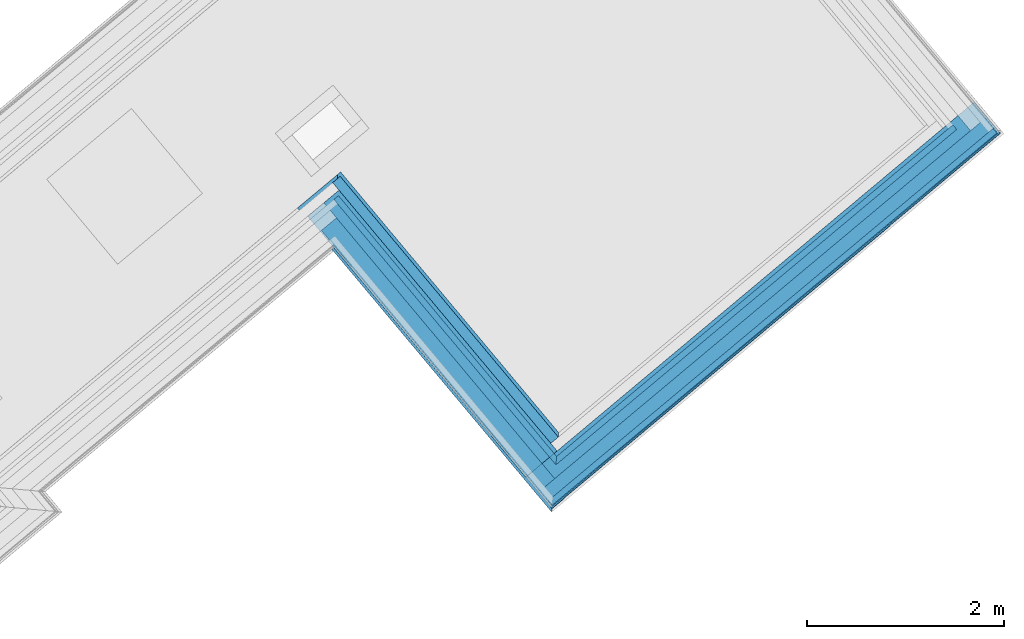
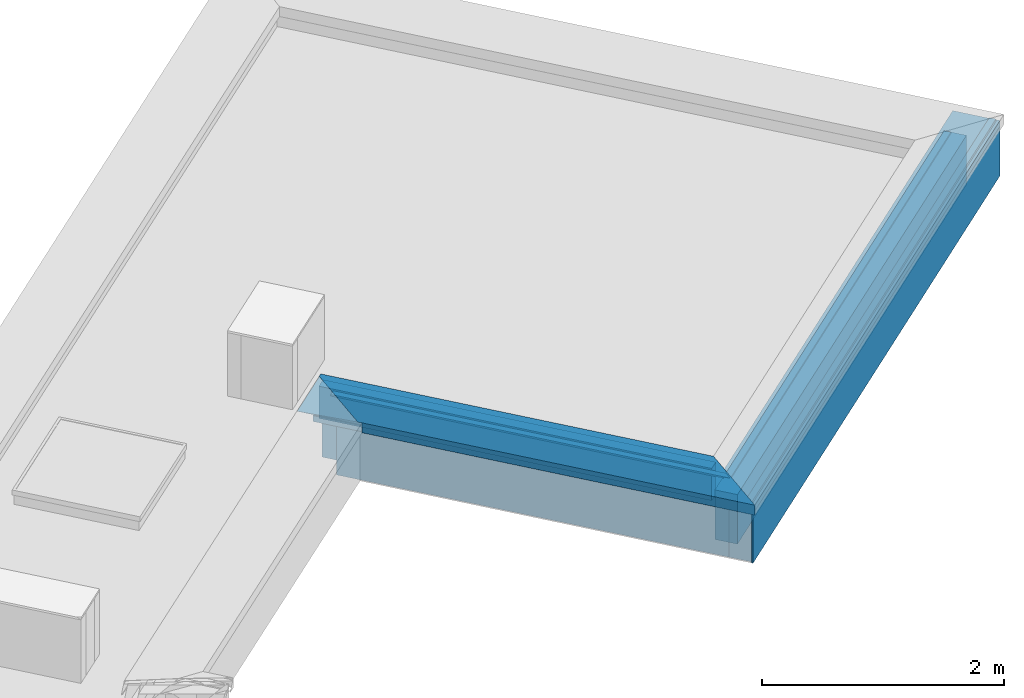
# One storey, part 7 of 13: 13 building element parts, 2 elements without a shape of their own.
"""IFC4 building model written with IfcOpenShell, lengths in metres."""

from ifc_helpers import new_model, entity, si_unit, converted_unit, derived_unit, direction, frame, origin_with_axes, place, context, subcontext, project, spatial, polygons, material, type_object, element, aggregate, save


model = new_model("IFC4")

# Units and contexts
model_context = context("Model", 3, precision=1e-05, world=origin_with_axes(), true_north=direction((0.0, 1.0)))
body_context = subcontext(model_context, "Body", "Model", "MODEL_VIEW")
ifc_project = project(units=[si_unit("LENGTHUNIT", "METRE"), si_unit("AREAUNIT", "SQUARE_METRE"), si_unit("VOLUMEUNIT", "CUBIC_METRE"), converted_unit("PLANEANGLEUNIT", "DEGREE", entity("IfcPlaneAngleMeasure", 0.0174532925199), si_unit("PLANEANGLEUNIT", "RADIAN"), dimensions=[0, 0, 0, 0, 0, 0, 0]), converted_unit("TIMEUNIT", "Year", entity("IfcTimeMeasure", 31556926.0), si_unit("TIMEUNIT", "SECOND"), dimensions=[0, 0, 1, 0, 0, 0, 0]), si_unit("MASSUNIT", "GRAM", prefix="KILO"), si_unit("THERMODYNAMICTEMPERATUREUNIT", "DEGREE_CELSIUS"), si_unit("LUMINOUSINTENSITYUNIT", "LUMEN"), si_unit("ENERGYUNIT", "JOULE", prefix="MEGA"), derived_unit("THERMALCONDUCTANCEUNIT", [(si_unit("POWERUNIT", "WATT"), 1), (si_unit("LENGTHUNIT", "METRE"), -1), (si_unit("THERMODYNAMICTEMPERATUREUNIT", "KELVIN"), -1)]), derived_unit("SPECIFICHEATCAPACITYUNIT", [(si_unit("ENERGYUNIT", "JOULE"), 1), (si_unit("MASSUNIT", "GRAM", prefix="KILO"), -1), (si_unit("THERMODYNAMICTEMPERATUREUNIT", "KELVIN"), -1)]), derived_unit("MASSDENSITYUNIT", [(si_unit("MASSUNIT", "GRAM", prefix="KILO"), 1), (si_unit("VOLUMEUNIT", "CUBIC_METRE"), -1)])], contexts=[model_context])

# Site, building, storey
site_placement = place(None, frame((-0.00153261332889, -0.00661245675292, 0.0), z_axis=(0.0, 0.0, 1.0), x_axis=(1.0, 0.0, 0.0)))
site = spatial("IfcSite", under=ifc_project, at=site_placement, Name="Gelände", CompositionType="ELEMENT")
building_placement = place(site_placement, origin_with_axes())
building = spatial("IfcBuilding", under=site, at=building_placement, Name="Gebäude", CompositionType="ELEMENT")
storey_placement = place(building_placement, frame((0.0, 0.0, 11.84), z_axis=(0.0, 0.0, 1.0), x_axis=(1.0, 0.0, 0.0)))
storey = spatial("IfcBuildingStorey", under=building, at=storey_placement, Name="DA", CompositionType="ELEMENT", Elevation=11.84)

# Wall, building element parts
wall_type = type_object("IfcWallType", Name="Individuelles Profil 574 x 610", PredefinedType="NOTDEFINED")
wall_1_placement = place(storey_placement, frame((12.0618093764, 21.5422970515, 0.0), z_axis=(0.0, 0.0, 1.0), x_axis=(-0.766948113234, -0.641709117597, 0.0)))
wall_1 = element("IfcWall", 1, at=wall_1_placement, inside=storey, type_object=wall_type, Name="Wand-004", PredefinedType="NOTDEFINED")
ifc_material_1 = material(Name="Zementputz")
building_element_part_1_placement = place(wall_1_placement, origin_with_axes())
building_element_part_1 = element("IfcBuildingElementPart", 2, at=building_element_part_1_placement, material=ifc_material_1, Name="Zementputz", PredefinedType="NOTDEFINED", context=body_context, shape_type="Tessellation", body=[
    polygons([(-0.214859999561, 0.214999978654, 0.0), (-0.214859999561, 0.214999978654, 0.50000001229), (5.72873487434, 0.214999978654, 0.50000001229), (5.72873487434, 0.214999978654, 0.0), (-0.214869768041, 0.199999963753, 0.0), (-0.214869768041, 0.199999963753, 0.50000001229), (5.72873487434, 0.199999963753, 0.50000001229), (5.72873487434, 0.199999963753, 0.0)], [[[1, 2, 3, 4]], [[2, 1, 5, 6]], [[2, 6, 7, 3]], [[4, 3, 7, 8]], [[5, 1, 4, 8]], [[6, 5, 8, 7]]], closed=True),
])
ifc_material_2 = material(Name="Vollholz")
building_element_part_2_placement = place(wall_1_placement, origin_with_axes())
building_element_part_2 = element("IfcBuildingElementPart", 3, at=building_element_part_2_placement, material=ifc_material_2, Name="Vollholz", PredefinedType="NOTDEFINED", context=body_context, shape_type="Tessellation", body=[
    polygons([(-0.189911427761, 0.130124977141, 0.584015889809), (-0.189872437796, 0.189996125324, 0.584015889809), (-0.189915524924, 0.190039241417, 0.575979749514), (-0.189954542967, 0.130124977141, 0.575979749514), (-0.18986147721, 0.189984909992, 0.586106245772), (5.70371980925, 0.189984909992, 0.586106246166), (5.7037310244, 0.189996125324, 0.584015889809), (5.7037741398, 0.190039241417, 0.575979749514), (5.70378540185, 0.190050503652, 0.573880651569), (5.7038172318, 0.190082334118, 0.567947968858), (5.70385987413, 0.190124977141, 0.560000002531), (-0.190001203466, 0.190124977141, 0.560000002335), (-0.189958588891, 0.190082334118, 0.567947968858), (-0.189926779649, 0.190050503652, 0.573880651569), (-0.189965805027, 0.130124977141, 0.573880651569), (-0.189997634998, 0.130124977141, 0.567947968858), (-0.190040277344, 0.130124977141, 0.560000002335), (5.70385987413, 0.130124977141, 0.560000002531), (5.7038172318, 0.130124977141, 0.567947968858), (5.70378540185, 0.130124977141, 0.573880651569), (5.7037741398, 0.130124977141, 0.575979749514), (5.7037310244, 0.130124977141, 0.584015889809)], [[[1, 2, 3, 4]], [[5, 2, 1]], [[2, 5, 6, 7, 8, 9, 10, 11, 12, 13, 14, 3]], [[4, 3, 14, 15]], [[1, 4, 15, 16, 17, 18, 19, 20, 21, 22]], [[5, 1, 22, 6]], [[7, 6, 22]], [[7, 22, 21, 8]], [[8, 21, 20, 9]], [[9, 20, 19, 10]], [[10, 19, 18, 11]], [[17, 12, 11, 18]], [[16, 13, 12, 17]], [[15, 14, 13, 16]]], closed=True),
])
ifc_material_3 = material(Name="EPS 1")
building_element_part_3_placement = place(wall_1_placement, origin_with_axes())
building_element_part_3 = element("IfcBuildingElementPart", 4, at=building_element_part_3_placement, material=ifc_material_3, Name="EPS 1", PredefinedType="NOTDEFINED", context=body_context, shape_type="Tessellation", body=[
    polygons([(-0.19986975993, 0.19999996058, 0.498822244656), (-0.19986975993, 0.19999996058, 0.5), (5.71373486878, 0.19999996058, 0.5), (5.71373486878, 0.19999996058, 0.498822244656), (5.71373486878, 0.19999996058, 0.491006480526), (5.71373486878, 0.19999996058, 0.488695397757), (5.71373486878, 0.19999996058, 0.235000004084), (5.71373486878, 0.19999996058, 0.0), (-0.19986975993, 0.19999996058, 0.0), (-0.19986975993, 0.19999996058, 0.235000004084), (-0.19986975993, 0.19999996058, 0.488695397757), (-0.19986975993, 0.19999996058, 0.491006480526), (-0.200000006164, -2.16659046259e-09, 0.5), (-0.200000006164, -2.16659046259e-09, 0.498822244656), (5.71373486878, -2.16659046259e-09, 0.5), (5.71373486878, -2.16659046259e-09, 0.498822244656), (5.71373486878, -2.16659046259e-09, 0.491006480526), (5.71373486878, -2.16659046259e-09, 0.488695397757), (5.71373486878, -2.16659046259e-09, 0.235000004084), (5.71373486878, -2.16659046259e-09, 0.0), (-0.200000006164, -2.16659046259e-09, 0.0), (-0.200000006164, -2.16659046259e-09, 0.235000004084), (-0.200000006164, -2.16659046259e-09, 0.488695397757), (-0.200000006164, -2.16659046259e-09, 0.491006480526)], [[[1, 2, 3, 4, 5, 6, 7, 8, 9, 10, 11, 12]], [[13, 2, 1, 14]], [[2, 13, 15, 3]], [[4, 3, 15, 16]], [[4, 16, 17, 5]], [[5, 17, 18, 6]], [[6, 18, 19, 7]], [[7, 19, 20, 8]], [[21, 9, 8, 20]], [[22, 10, 9, 21]], [[23, 11, 10, 22]], [[24, 12, 11, 23]], [[14, 1, 12, 24]], [[13, 14, 24, 23, 22, 21, 20, 19, 18, 17, 16, 15]]], closed=True),
])
ifc_material_4 = material(Name="Brettschichtholz")
building_element_part_4_placement = place(wall_1_placement, origin_with_axes())
building_element_part_4 = element("IfcBuildingElementPart", 5, at=building_element_part_4_placement, material=ifc_material_4, Name="Brettschichtholz", PredefinedType="NOTDEFINED", context=body_context, shape_type="Tessellation", body=[
    polygons([(-0.214860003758, 0.214999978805, 0.519224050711), (-0.214860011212, 0.214999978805, 0.559999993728), (5.72873487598, 0.214999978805, 0.559999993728), (5.72873487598, 0.214999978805, 0.519224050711), (5.72873487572, 0.214999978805, 0.51136132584), (5.72873487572, 0.214999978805, 0.509050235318), (5.72873487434, 0.214999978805, 0.50000001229), (-0.214859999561, 0.214999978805, 0.50000001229), (-0.214860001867, 0.214999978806, 0.509050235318), (-0.214860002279, 0.214999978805, 0.51136132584), (-0.214876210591, 0.190124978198, 0.559999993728), (-0.215130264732, -0.200000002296, 0.519224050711), (-0.215130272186, -0.200000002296, 0.559999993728), (-0.215104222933, -0.159999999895, 0.559999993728), (-0.215065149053, -0.0999999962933, 0.559999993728), (-0.214915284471, 0.130124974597, 0.559999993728), (5.72873487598, 0.190124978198, 0.559999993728), (5.72873487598, 0.130124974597, 0.559999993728), (5.72873487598, -0.0999999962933, 0.559999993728), (5.72873487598, -0.159999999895, 0.559999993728), (5.72873487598, -0.200000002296, 0.559999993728), (5.72873487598, -0.200000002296, 0.519224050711), (5.72873487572, -0.200000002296, 0.51136132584), (5.72873487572, -0.200000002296, 0.509050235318), (5.72873487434, -0.200000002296, 0.50000001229), (-0.215130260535, -0.200000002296, 0.50000001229), (-0.215130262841, -0.200000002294, 0.509050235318), (-0.215130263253, -0.200000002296, 0.51136132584)], [[[1, 2, 3, 4, 5, 6, 7, 8, 9, 10]], [[11, 2, 1, 12, 13, 14, 15, 16]], [[2, 11, 17, 3]], [[4, 3, 17, 18, 19, 20, 21, 22]], [[4, 22, 23, 5]], [[5, 23, 24, 6]], [[6, 24, 25, 7]], [[25, 26, 8, 7]], [[27, 9, 8, 26]], [[28, 10, 9, 27]], [[12, 1, 10, 28]], [[13, 12, 28, 27, 26, 25, 24, 23, 22, 21]], [[14, 13, 21, 20]], [[15, 14, 20, 19]], [[16, 15, 19, 18]], [[11, 16, 18, 17]]], closed=True),
])
ifc_material_5 = material(Name="Stahlbeton Wand Garage")
building_element_part_5_placement = place(wall_1_placement, origin_with_axes())
building_element_part_5 = element("IfcBuildingElementPart", 6, at=building_element_part_5_placement, material=ifc_material_5, Name="Stahlbeton Wand Garage", PredefinedType="NOTDEFINED", context=body_context, shape_type="Tessellation", body=[
    polygons([(2.16659046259e-09, 0.0, 0.498822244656), (2.16658690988e-09, 0.0, 0.5), (5.51373490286, 0.0, 0.5), (5.51373490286, 0.0, 0.498822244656), (5.51373490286, 0.0, 0.491006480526), (5.51373490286, 0.0, 0.488695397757), (5.51373490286, 0.0, 0.235000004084), (5.51373490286, 0.0, 0.0), (2.16659046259e-09, 0.0, 0.0), (2.16659046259e-09, 0.0, 0.235000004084), (2.16659046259e-09, 0.0, 0.488695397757), (2.16659046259e-09, 0.0, 0.491006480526), (-0.000130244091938, -0.2, 0.5), (-0.000130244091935, -0.2, 0.498822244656), (5.51373490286, -0.2, 0.5), (5.51373490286, -0.2, 0.498822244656), (5.51373490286, -0.2, 0.491006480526), (5.51373490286, -0.2, 0.488695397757), (5.51373490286, -0.200000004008, 0.235000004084), (5.51373490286, -0.2, 0.0), (-0.000130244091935, -0.2, 0.0), (-0.000130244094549, -0.200000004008, 0.235000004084), (-0.000130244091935, -0.2, 0.488695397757), (-0.000130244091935, -0.2, 0.491006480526)], [[[1, 2, 3, 4, 5, 6, 7, 8, 9, 10, 11, 12]], [[13, 2, 1, 14]], [[2, 13, 15, 3]], [[4, 3, 15, 16]], [[4, 16, 17, 5]], [[5, 17, 18, 6]], [[6, 18, 19, 7]], [[7, 19, 20, 8]], [[21, 9, 8, 20]], [[22, 10, 9, 21]], [[23, 11, 10, 22]], [[24, 12, 11, 23]], [[14, 1, 12, 24]], [[13, 14, 24, 23, 22, 19, 18, 17, 16, 15]], [[22, 21, 20, 19]]], closed=True),
])
building_element_part_6_placement = place(wall_1_placement, origin_with_axes())
building_element_part_6 = element("IfcBuildingElementPart", 7, at=building_element_part_6_placement, material=ifc_material_2, Name="Vollholz", PredefinedType="NOTDEFINED", context=body_context, shape_type="Tessellation", body=[
    polygons([(0.0999348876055, -0.1, 0.573880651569), (0.0999348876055, -0.1, 0.575979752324), (5.41373489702, -0.1, 0.575979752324), (5.41373489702, -0.1, 0.573880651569), (5.41373489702, -0.1, 0.567947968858), (5.41373489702, -0.1, 0.560000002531), (0.0999348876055, -0.1, 0.560000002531), (0.0999348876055, -0.1, 0.567947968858), (0.0998957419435, -0.160110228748, 0.573880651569), (5.41373489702, -0.160110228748, 0.573880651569), (5.41373489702, -0.160063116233, 0.567947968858), (5.41373489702, -0.16, 0.560000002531), (0.0998958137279, -0.16, 0.560000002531), (0.0998957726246, -0.160063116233, 0.567947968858)], [[[1, 2, 3, 4, 5, 6, 7, 8]], [[9, 2, 1]], [[2, 9, 10, 3]], [[4, 3, 10]], [[4, 10, 11, 5]], [[5, 11, 12, 6]], [[13, 7, 6, 12]], [[14, 8, 7, 13]], [[9, 1, 8, 14]], [[9, 14, 13, 12, 11, 10]]], closed=True),
])
aggregate(wall_1, [building_element_part_1, building_element_part_2, building_element_part_3, building_element_part_4, building_element_part_5, building_element_part_6])

wall_2_placement = place(storey_placement, frame((5.6143951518, 20.6557540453, 0.0), z_axis=(0.0, 0.0, 1.0), x_axis=(0.641709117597, -0.766948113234, 0.0)))
wall_2 = element("IfcWall", 8, at=wall_2_placement, inside=storey, type_object=wall_type, Name="Wand-004", PredefinedType="NOTDEFINED")
ifc_material_6 = material(Name="Stahl")
building_element_part_7_placement = place(wall_2_placement, origin_with_axes())
building_element_part_7 = element("IfcBuildingElementPart", 9, at=building_element_part_7_placement, material=ifc_material_6, Name="Stahl", PredefinedType="NOTDEFINED", context=body_context, shape_type="Tessellation", body=[
    polygons([(0.23924354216, -0.241500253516, 0.510007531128), (0.240202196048, -0.240542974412, 0.509050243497), (3.69797498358, -0.240542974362, 0.509050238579), (3.69701768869, -0.241500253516, 0.510007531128), (0.237889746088, -0.241500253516, 0.511361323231), (0.237891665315, -0.24014644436, 0.511361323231), (0.237894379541, -0.238231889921, 0.51136132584), (0.231045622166, -0.23137340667, 0.518219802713), (3.68880540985, -0.23137340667, 0.518219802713), (3.69566389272, -0.238231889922, 0.511361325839), (3.69566389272, -0.241500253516, 0.511361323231), (3.69566389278, -0.24014644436, 0.511361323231), (0.23980749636, -0.241500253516, 0.559999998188), (0.239804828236, -0.241500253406, 0.519224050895), (0.239804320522, -0.241500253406, 0.51136132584), (3.69757845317, -0.241500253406, 0.51136132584), (3.69757896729, -0.241500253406, 0.519224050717), (3.69758163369, -0.241500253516, 0.559999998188), (3.69758215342, -0.241500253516, 0.567947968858), (3.69758254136, -0.241500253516, 0.573880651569), (3.69758267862, -0.241500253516, 0.575979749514), (3.69758320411, -0.241500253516, 0.584015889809), (3.6975833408, -0.241500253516, 0.586106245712), (3.69758346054, -0.241500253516, 0.587937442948), (3.69758480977, -0.241500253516, 0.608570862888), (3.69758481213, -0.241500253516, 0.608602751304), (3.66016264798, -0.241500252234, 0.608602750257), (3.69893226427, -0.241500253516, 0.610006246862), (0.241158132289, -0.241500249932, 0.610006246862), (0.202388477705, -0.241500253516, 0.608602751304), (0.239810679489, -0.241500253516, 0.608602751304), (0.239810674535, -0.241500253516, 0.608570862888), (0.239809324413, -0.241500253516, 0.587937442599), (0.239809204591, -0.241500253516, 0.586106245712), (0.239809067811, -0.241500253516, 0.584015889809), (0.239808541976, -0.241500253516, 0.575979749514), (0.239808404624, -0.241500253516, 0.573880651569), (0.239808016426, -0.241500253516, 0.567947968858), (0.23980623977, -0.240146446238, 0.51136132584), (0.231042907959, -0.233287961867, 0.518219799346), (0.231954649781, -0.23228372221, 0.519224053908), (3.68971573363, -0.23228372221, 0.519224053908), (3.68880540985, -0.233287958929, 0.518219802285), (3.69757845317, -0.240146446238, 0.51136132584), (0.239809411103, -0.240149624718, 0.559999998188), (0.239806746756, -0.240146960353, 0.519224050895), (3.69757896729, -0.240146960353, 0.519224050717), (3.69758163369, -0.240149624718, 0.559999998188), (3.69758215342, -0.240150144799, 0.567947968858), (3.69758254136, -0.240150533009, 0.573880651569), (3.69758267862, -0.240150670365, 0.575979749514), (3.69758320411, -0.240151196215, 0.584015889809), (3.6975833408, -0.240151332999, 0.586106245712), (3.69758346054, -0.240151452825, 0.587937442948), (3.69758480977, -0.240152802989, 0.608570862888), (3.69758481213, -0.240152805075, 0.608602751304), (3.66016264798, -0.240152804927, 0.608602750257), (3.66016264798, -0.202730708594, 0.608602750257), (3.65928180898, -0.201849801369, 0.608570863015), (3.12538011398, 0.332051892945, 0.589243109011), (-0.33158089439, 0.332051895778, 0.589243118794), (-0.331633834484, 0.294630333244, 0.58924311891), (0.201513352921, -0.239276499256, 0.608570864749), (0.202392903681, -0.240152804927, 0.608602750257), (0.239812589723, -0.240152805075, 0.608602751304), (0.239812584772, -0.240152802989, 0.608570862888), (0.239811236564, -0.240151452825, 0.587937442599), (0.239811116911, -0.240151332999, 0.586106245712), (0.239810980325, -0.240151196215, 0.584015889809), (0.239810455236, -0.240150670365, 0.575979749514), (0.239810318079, -0.240150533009, 0.573880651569), (0.239809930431, -0.240150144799, 0.567947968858), (3.65928180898, -0.239276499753, 0.608570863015), (3.12538011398, 0.294630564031, 0.589243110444), (3.12538011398, 0.332051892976, 0.489652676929), (-0.33158089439, 0.332051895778, 0.489652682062), (3.12538011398, 0.332051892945, 0.587937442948), (3.12538011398, 0.332051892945, 0.586106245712), (3.12538011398, 0.332051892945, 0.584015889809), (3.12538011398, 0.332051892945, 0.575979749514), (3.12538011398, 0.332051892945, 0.573880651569), (3.12538011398, 0.332051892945, 0.567947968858), (3.12538011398, 0.332051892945, 0.55999999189), (3.12538011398, 0.332051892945, 0.519224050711), (3.12538011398, 0.332051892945, 0.51136132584), (3.12538011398, 0.332051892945, 0.509050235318), (3.12538011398, 0.332051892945, 0.499999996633), (3.12538011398, 0.332051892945, 0.498822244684), (3.12538011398, 0.332051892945, 0.491006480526), (-0.331583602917, 0.330137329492, 0.489652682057), (-0.331586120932, 0.328783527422, 0.491006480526), (-0.331580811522, 0.330698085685, 0.491006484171), (-0.331580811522, 0.330698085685, 0.587937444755), (3.12538011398, 0.330698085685, 0.587937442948), (3.12633739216, 0.331094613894, 0.488695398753), (-0.330625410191, 0.331094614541, 0.488695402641), (3.12538011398, 0.330698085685, 0.586106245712), (3.12538011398, 0.330698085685, 0.584015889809), (3.12538011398, 0.330698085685, 0.575979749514), (3.12538011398, 0.330698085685, 0.573880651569), (3.12538011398, 0.330698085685, 0.567947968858), (3.12538011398, 0.330698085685, 0.55999999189), (3.12538011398, 0.330698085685, 0.519224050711), (3.12538011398, 0.330698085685, 0.51136132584), (3.12538011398, 0.330698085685, 0.509050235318), (3.12538011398, 0.330698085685, 0.499999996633), (3.12538011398, 0.330698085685, 0.498822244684), (3.12538011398, 0.330698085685, 0.491006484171), (3.12538011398, 0.32878353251, 0.491006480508), (3.12538011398, 0.330137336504, 0.489652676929), (-0.323336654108, 0.32187807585, 0.497911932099), (-0.330232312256, 0.328783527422, 0.491006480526), (3.1267339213, 0.328783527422, 0.491006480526), (3.13363936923, 0.32187807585, 0.497911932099), (-0.33022959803, 0.33069808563, 0.491006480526), (3.1267339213, 0.33069808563, 0.491006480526), (-0.322424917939, 0.322882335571, 0.498822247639), (3.13454968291, 0.322882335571, 0.498822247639)], [[[1, 2, 3, 4]], [[1, 5, 6, 7, 2]], [[2, 7, 8, 9, 10, 3]], [[11, 4, 3, 10, 12]], [[13, 14, 15, 5, 1, 4, 11, 16, 17, 18, 19, 20, 21, 22, 23, 24, 25, 26, 27, 28, 29, 30, 31, 32, 33, 34, 35, 36, 37, 38]], [[6, 5, 15, 39]], [[6, 40, 8, 7]], [[8, 41, 42, 9]], [[12, 10, 9, 43]], [[11, 12, 44, 16]], [[14, 13, 45, 46]], [[39, 15, 14, 46]], [[17, 16, 44, 47]], [[18, 17, 47, 48]], [[19, 18, 48, 49]], [[20, 19, 49, 50]], [[21, 20, 50, 51]], [[22, 21, 51, 52]], [[23, 22, 52, 53]], [[24, 23, 53, 54]], [[24, 54, 55, 25]], [[25, 55, 56, 26]], [[26, 56, 57, 27]], [[28, 27, 57, 58]], [[29, 28, 58, 59, 60, 61]], [[30, 29, 61, 62, 63, 64]], [[65, 31, 30, 64]], [[31, 65, 66, 32]], [[33, 32, 66, 67]], [[34, 33, 67, 68]], [[35, 34, 68, 69]], [[36, 35, 69, 70]], [[37, 36, 70, 71]], [[38, 37, 71, 72]], [[13, 38, 72, 45]], [[6, 39, 12, 43, 42, 41, 40]], [[40, 41, 8]], [[42, 43, 9]], [[39, 46, 45, 72, 71, 70, 69, 68, 67, 66, 65, 57, 56, 55, 54, 53, 52, 51, 50, 49, 48, 47, 44, 12]], [[57, 73, 59, 58]], [[73, 74, 60, 59]], [[75, 76, 61, 60, 77, 78, 79, 80, 81, 82, 83, 84, 85, 86, 87, 88, 89]], [[90, 91, 92, 93, 62, 61, 76]], [[63, 62, 93, 94, 74, 73]], [[65, 64, 63, 73, 57]], [[74, 94, 77, 60]], [[95, 96, 76, 75]], [[94, 97, 78, 77]], [[97, 98, 79, 78]], [[98, 99, 80, 79]], [[99, 100, 81, 80]], [[100, 101, 82, 81]], [[101, 102, 83, 82]], [[102, 103, 84, 83]], [[103, 104, 85, 84]], [[104, 105, 86, 85]], [[105, 106, 87, 86]], [[106, 107, 88, 87]], [[107, 108, 89, 88]], [[109, 110, 75, 89, 108]], [[111, 112, 91, 90, 96, 95, 110, 109, 113, 114]], [[91, 112, 115, 92]], [[115, 108, 107, 106, 105, 104, 103, 102, 101, 100, 99, 98, 97, 94, 93, 92]], [[96, 90, 76]], [[110, 95, 75]], [[113, 109, 108, 116]], [[112, 111, 117, 115]], [[113, 116, 118, 114]], [[117, 111, 114, 118]], [[108, 115, 117, 118, 116]]], closed=True),
])
ifc_material_7 = material(Name="Holzwerkstoff")
building_element_part_8_placement = place(wall_2_placement, origin_with_axes())
building_element_part_8 = element("IfcBuildingElementPart", 10, at=building_element_part_8_placement, material=ifc_material_7, Name="Holzwerkstoff", PredefinedType="NOTDEFINED", context=body_context, shape_type="Tessellation", body=[
    polygons([(-0.331038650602, -0.239997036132, 0.587937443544), (0.238937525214, -0.239276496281, 0.608570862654), (-0.330229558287, 0.330698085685, 0.587937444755), (-0.331035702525, -0.239999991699, 0.587852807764), (3.12673687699, -0.239999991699, 0.587852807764), (3.12673392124, -0.23999703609, 0.587937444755), (3.69670840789, -0.239276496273, 0.608570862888), (3.12673392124, 0.330698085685, 0.587937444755), (-0.330903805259, -0.189984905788, 0.586106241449), (-0.330165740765, 0.330634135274, 0.586106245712), (3.12679787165, -0.189985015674, 0.586106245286), (3.12679787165, 0.330634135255, 0.586106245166), (-0.329532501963, 0.329999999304, 0.567947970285), (-0.329739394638, 0.330207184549, 0.573880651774), (-0.329812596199, 0.330280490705, 0.575979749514), (-0.330092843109, 0.330561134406, 0.584015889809), (3.12687087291, 0.330561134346, 0.584015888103), (3.12715151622, 0.330280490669, 0.575979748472), (3.12722482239, 0.330207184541, 0.573880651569), (3.12743205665, 0.329999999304, 0.567947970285), (-0.330745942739, -0.130124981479, 0.584015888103), (3.12687087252, -0.13012506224, 0.584015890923), (-0.329980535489, 0.160110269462, 0.573880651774), (-0.330139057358, 0.0999999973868, 0.575979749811), (3.12715151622, 0.100000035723, 0.575979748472), (3.12722482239, 0.160110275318, 0.573880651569)], [[[1, 2, 3]], [[1, 4, 5, 6, 7, 2]], [[3, 2, 7, 8]], [[9, 4, 1, 3, 10]], [[4, 9, 11, 5]], [[5, 11, 12, 8, 6]], [[7, 6, 8]], [[13, 14, 15, 16, 10, 3, 8, 12, 17, 18, 19, 20]], [[21, 9, 10, 16]], [[9, 21, 22, 11]], [[11, 22, 17, 12]], [[13, 23, 14]], [[14, 23, 24, 15]], [[24, 21, 16, 15]], [[25, 18, 17, 22]], [[25, 26, 19, 18]], [[26, 20, 19]], [[23, 13, 20, 26]], [[21, 24, 25, 22]], [[24, 23, 26, 25]]], closed=True),
])
building_element_part_9_placement = place(wall_2_placement, origin_with_axes())
building_element_part_9 = element("IfcBuildingElementPart", 11, at=building_element_part_9_placement, material=ifc_material_3, Name="EPS 1", PredefinedType="NOTDEFINED", context=body_context, shape_type="Tessellation", body=[
    polygons([(-0.299716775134, 0.200000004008, 0.23500000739), (-0.299716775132, 0.200000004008, 0.488695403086), (-0.299575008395, 0.30000000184, 0.488695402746), (-0.299575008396, 0.30000000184, 0.23500000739), (3.15743200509, 0.200000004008, 0.235000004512), (3.15743200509, 0.200000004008, 0.488695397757), (3.15743200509, 0.200000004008, 0.491006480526), (3.15743200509, 0.200000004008, 0.498822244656), (3.15743200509, 0.200000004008, 0.499999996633), (3.15743200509, 0.200000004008, 0.509050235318), (3.15743200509, 0.200000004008, 0.51136132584), (3.15743200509, 0.200000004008, 0.519224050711), (3.15743200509, 0.200000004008, 0.560000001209), (-0.299716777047, 0.200000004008, 0.560000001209), (-0.299716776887, 0.200000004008, 0.519224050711), (-0.299716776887, 0.200000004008, 0.51136132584), (-0.299716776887, 0.200000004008, 0.509050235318), (-0.299716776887, 0.200000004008, 0.499999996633), (-0.299716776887, 0.200000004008, 0.498822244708), (-0.299716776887, 0.200000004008, 0.491006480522), (-0.299575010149, 0.30000000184, 0.491006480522), (-0.299575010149, 0.30000000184, 0.498822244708), (-0.299575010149, 0.30000000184, 0.499999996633), (-0.299575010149, 0.30000000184, 0.509050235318), (-0.299575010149, 0.30000000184, 0.51136132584), (-0.299575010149, 0.30000000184, 0.519224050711), (-0.299575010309, 0.30000000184, 0.560000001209), (3.15743200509, 0.30000000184, 0.560000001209), (3.15743200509, 0.30000000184, 0.519224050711), (3.15743200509, 0.30000000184, 0.51136132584), (3.15743200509, 0.30000000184, 0.509050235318), (3.15743200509, 0.30000000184, 0.499999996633), (3.15743200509, 0.30000000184, 0.498822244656), (3.15743200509, 0.30000000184, 0.491006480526), (3.15743200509, 0.30000000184, 0.488695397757), (3.15743200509, 0.30000000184, 0.235000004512)], [[[1, 2, 3, 4]], [[2, 1, 5, 6, 7, 8, 9, 10, 11, 12, 13, 14, 15, 16, 17, 18, 19, 20]], [[3, 2, 20, 21]], [[4, 3, 21, 22, 23, 24, 25, 26, 27, 28, 29, 30, 31, 32, 33, 34, 35, 36]], [[1, 4, 36, 5]], [[6, 5, 36, 35]], [[7, 6, 35, 34]], [[8, 7, 34, 33]], [[9, 8, 33, 32]], [[10, 9, 32, 31]], [[11, 10, 31, 30]], [[12, 11, 30, 29]], [[12, 29, 28, 13]], [[27, 14, 13, 28]], [[15, 14, 27, 26]], [[16, 15, 26, 25]], [[17, 16, 25, 24]], [[18, 17, 24, 23]], [[19, 18, 23, 22]], [[20, 19, 22, 21]]], closed=True),
])
building_element_part_10_placement = place(wall_2_placement, origin_with_axes())
building_element_part_10 = element("IfcBuildingElementPart", 12, at=building_element_part_10_placement, material=ifc_material_2, Name="Vollholz", PredefinedType="NOTDEFINED", context=body_context, shape_type="Tessellation", body=[
    polygons([(-0.159968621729, 0.100000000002, 0.573880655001), (-0.159883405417, 0.16011022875, 0.573880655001), (-0.159836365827, 0.160063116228, 0.567947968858), (-0.159921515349, 0.100000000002, 0.567947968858), (-0.0998583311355, 0.100000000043, 0.575979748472), (3.29743200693, 0.16, 0.560000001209), (-0.159773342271, 0.16, 0.560000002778), (3.29732177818, 0.160110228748, 0.573880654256), (3.2973688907, 0.160063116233, 0.567947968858), (-0.159858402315, 0.1, 0.560000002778), (3.29743200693, 0.1, 0.560000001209), (3.2973688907, 0.1, 0.567947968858), (3.29732177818, 0.1, 0.573880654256), (3.35743200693, 0.1, 0.575979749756)], [[[1, 2, 3, 4]], [[5, 2, 1]], [[6, 7, 3, 2, 8, 9]], [[4, 3, 7, 10]], [[5, 1, 4, 10, 11, 12, 13, 14]], [[2, 5, 14, 8]], [[11, 10, 7, 6]], [[13, 12, 9, 8]], [[9, 12, 11, 6]], [[13, 8, 14]]], closed=True),
])
building_element_part_11_placement = place(wall_2_placement, origin_with_axes())
building_element_part_11 = element("IfcBuildingElementPart", 13, at=building_element_part_11_placement, material=ifc_material_5, Name="Stahlbeton Wand Garage", PredefinedType="NOTDEFINED", context=body_context, shape_type="Tessellation", body=[
    polygons([(-0.199998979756, 0.0, 0.0), (-0.200000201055, 4.00811117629e-09, 0.23500000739), (-0.199716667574, 0.200000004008, 0.23500000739), (-0.199715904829, 0.2, 0.0), (3.25743200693, 9.49615497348e-10, 0.0), (3.25743200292, 8.69654570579e-10, 0.235000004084), (3.25743200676, 7.83330733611e-10, 0.488695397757), (3.25743200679, 7.82545583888e-10, 0.491006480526), (3.25743200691, 7.79888154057e-10, 0.498822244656), (3.25743200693, 7.79483144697e-10, 0.5), (-0.20000020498, 4.45667680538e-09, 0.499999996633), (-0.20000020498, 4.45707826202e-09, 0.498822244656), (-0.20000020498, 4.45973924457e-09, 0.491006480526), (-0.20000020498, 4.46052439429e-09, 0.488695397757), (-0.199716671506, 0.199999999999, 0.488695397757), (3.25743200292, 0.200000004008, 0.235000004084), (3.25743200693, 0.2, 0.0), (3.25743200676, 0.200000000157, 0.488695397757), (3.25743200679, 0.200000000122, 0.491006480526), (3.25743200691, 0.200000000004, 0.498822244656), (3.25743200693, 0.199999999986, 0.5), (-0.199716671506, 0.199999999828, 0.499999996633), (-0.199716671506, 0.199999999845, 0.498822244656), (-0.199716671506, 0.199999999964, 0.491006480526)], [[[1, 2, 3, 4]], [[2, 1, 5, 6, 7, 8, 9, 10, 11, 12, 13, 14]], [[2, 14, 15, 3]], [[16, 17, 4, 3]], [[5, 1, 4, 17]], [[6, 5, 17, 16]], [[7, 6, 16, 18]], [[8, 7, 18, 19]], [[9, 8, 19, 20]], [[10, 9, 20, 21]], [[22, 11, 10, 21]], [[12, 11, 22, 23]], [[13, 12, 23, 24]], [[14, 13, 24, 15]], [[15, 24, 23, 22, 21, 20, 19, 18, 16, 3]]], closed=True),
])
building_element_part_12_placement = place(wall_2_placement, origin_with_axes())
building_element_part_12 = element("IfcBuildingElementPart", 14, at=building_element_part_12_placement, material=ifc_material_4, Name="Brettschichtholz", PredefinedType="NOTDEFINED", context=body_context, shape_type="Tessellation", body=[
    polygons([(-0.199716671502, 0.200000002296, 0.519224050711), (-0.199716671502, 0.200000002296, 0.560000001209), (3.25743200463, 0.200000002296, 0.560000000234), (3.25743200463, 0.200000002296, 0.519224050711), (3.25743200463, 0.200000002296, 0.51136132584), (3.25743200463, 0.200000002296, 0.509050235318), (3.25743200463, 0.200000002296, 0.499999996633), (-0.199716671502, 0.200000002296, 0.499999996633), (-0.199716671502, 0.200000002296, 0.509050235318), (-0.199716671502, 0.200000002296, 0.51136132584), (-0.199773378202, 0.159999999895, 0.560000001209), (-0.200305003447, -0.214999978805, 0.519224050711), (-0.200305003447, -0.214999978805, 0.560000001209), (-0.20026973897, -0.190124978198, 0.560000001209), (-0.200184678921, -0.130124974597, 0.560000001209), (-0.199858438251, 0.0999999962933, 0.560000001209), (3.25743200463, 0.159999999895, 0.560000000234), (3.25743200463, -0.190124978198, 0.560000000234), (3.25743200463, -0.214999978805, 0.560000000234), (3.25743200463, -0.214999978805, 0.519224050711), (3.25743200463, 0.0999999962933, 0.560000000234), (3.25743200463, -0.130124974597, 0.560000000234), (3.25743200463, -0.214999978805, 0.51136132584), (3.25743200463, -0.214999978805, 0.509050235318), (3.25743200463, -0.214999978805, 0.499999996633), (-0.200305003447, -0.214999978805, 0.499999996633), (-0.200305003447, -0.214999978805, 0.509050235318), (-0.200305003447, -0.214999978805, 0.51136132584)], [[[1, 2, 3, 4, 5, 6, 7, 8, 9, 10]], [[11, 2, 1, 12, 13, 14, 15, 16]], [[2, 11, 17, 3]], [[18, 19, 20, 4, 3, 17, 21, 22]], [[20, 23, 5, 4]], [[6, 5, 23, 24]], [[7, 6, 24, 25]], [[26, 8, 7, 25]], [[8, 26, 27, 9]], [[9, 27, 28, 10]], [[12, 1, 10, 28]], [[13, 12, 28, 27, 26, 25, 24, 23, 20, 19]], [[14, 13, 19, 18]], [[15, 14, 18, 22]], [[16, 15, 22, 21]], [[11, 16, 21, 17]]], closed=True),
])
building_element_part_13_placement = place(wall_2_placement, origin_with_axes())
building_element_part_13 = element("IfcBuildingElementPart", 15, at=building_element_part_13_placement, material=ifc_material_3, Name="EPS 1", PredefinedType="NOTDEFINED", context=body_context, shape_type="Tessellation", body=[
    polygons([(0.0, 2.16659046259e-09, 0.498822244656), (0.0, 2.16659401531e-09, 0.5), (3.45743200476, 2.16658690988e-09, 0.5), (3.45743200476, 2.16658690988e-09, 0.498822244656), (3.45743200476, 2.16658690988e-09, 0.491006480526), (3.45743200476, 2.16658690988e-09, 0.488695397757), (3.45743200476, 2.16658690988e-09, 0.235000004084), (3.45743200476, 2.16658690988e-09, 0.0), (0.0, 2.16659046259e-09, 0.0), (0.0, 2.16659046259e-09, 0.235000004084), (0.0, 2.16659046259e-09, 0.488695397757), (0.0, 2.16659046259e-09, 0.491006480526), (-0.000283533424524, -0.19999996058, 0.5), (-0.000283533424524, -0.19999996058, 0.498822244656), (3.45743200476, -0.19999996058, 0.5), (3.45743200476, -0.19999996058, 0.498822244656), (3.45743200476, -0.19999996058, 0.491006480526), (3.45743200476, -0.19999996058, 0.488695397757), (3.45743200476, -0.19999996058, 0.235000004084), (3.45743200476, -0.19999996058, 0.0), (-0.000283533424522, -0.19999996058, 0.0), (-0.000283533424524, -0.19999996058, 0.235000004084), (-0.000283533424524, -0.19999996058, 0.488695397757), (-0.000283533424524, -0.19999996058, 0.491006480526)], [[[1, 2, 3, 4, 5, 6, 7, 8, 9, 10, 11, 12]], [[13, 2, 1, 14]], [[2, 13, 15, 3]], [[4, 3, 15, 16]], [[4, 16, 17, 5]], [[5, 17, 18, 6]], [[19, 7, 6, 18]], [[20, 8, 7, 19]], [[21, 9, 8, 20]], [[22, 10, 9, 21]], [[10, 22, 23, 11]], [[11, 23, 24, 12]], [[14, 1, 12, 24]], [[13, 14, 24, 23, 22, 21, 20, 19, 18, 17, 16, 15]]], closed=True),
])
aggregate(wall_2, [building_element_part_7, building_element_part_8, building_element_part_9, building_element_part_10, building_element_part_11, building_element_part_12, building_element_part_13])

save(model, "model.ifc")
